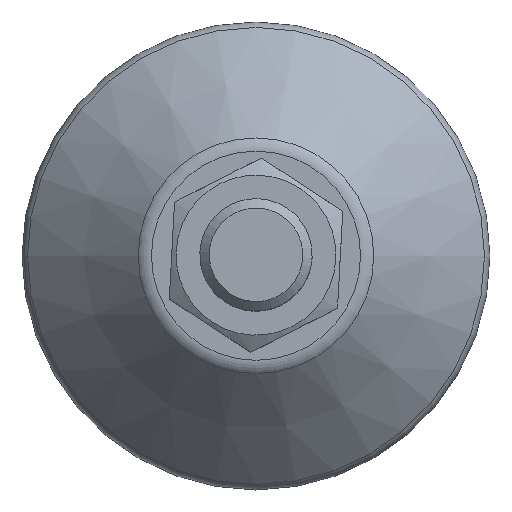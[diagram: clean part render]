
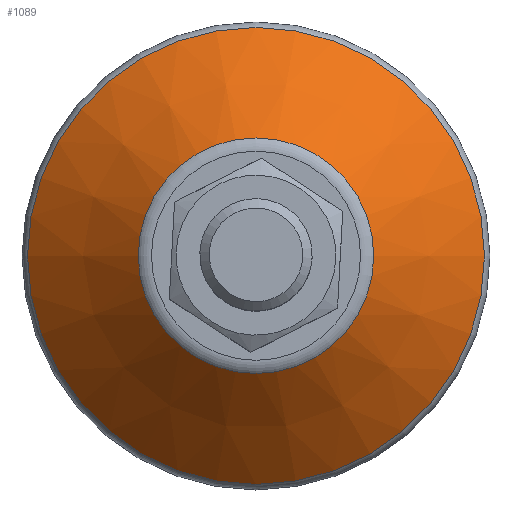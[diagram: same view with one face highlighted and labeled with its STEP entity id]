
A CAD part, top view. The second image highlights one B-rep face of the part: STEP entity #1089.
In plain terms, the highlighted conical face has half-angle 45 degrees and reference radius 18.5 mm.
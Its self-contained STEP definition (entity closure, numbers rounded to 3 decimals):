
#1089=ADVANCED_FACE('',(#2538,#2540),#2542,.T.);
#2538=FACE_BOUND('',#2539,.T.);
#2539=EDGE_LOOP('',(#3682,#3683));
#2540=FACE_BOUND('',#2541,.T.);
#2541=EDGE_LOOP('',(#3684,#3685));
#2542=CONICAL_SURFACE('',#2543,18.5,0.785);
#2543=AXIS2_PLACEMENT_3D('',#2544,#2545,#2546);
#2544=CARTESIAN_POINT('',(0.,0.,11.5));
#2545=DIRECTION('',(0.,0.,-1.));
#2546=DIRECTION('',(1.,0.,0.));
#3682=ORIENTED_EDGE('',*,*,#4375,.T.);
#3683=ORIENTED_EDGE('',*,*,#4374,.T.);
#3684=ORIENTED_EDGE('',*,*,#4378,.F.);
#3685=ORIENTED_EDGE('',*,*,#4379,.F.);
#4374=EDGE_CURVE('',#5072,#5073,#5074,.T.);
#4375=EDGE_CURVE('',#5073,#5072,#5075,.T.);
#4378=EDGE_CURVE('',#5080,#5081,#5082,.T.);
#4379=EDGE_CURVE('',#5081,#5080,#5083,.T.);
#5072=VERTEX_POINT('',#7697);
#5073=VERTEX_POINT('',#7698);
#5074=CIRCLE('',#7699,24.414);
#5075=CIRCLE('',#7703,24.414);
#5080=VERTEX_POINT('',#7717);
#5081=VERTEX_POINT('',#7718);
#5082=CIRCLE('',#7719,12.586);
#5083=CIRCLE('',#7723,12.586);
#7697=CARTESIAN_POINT('',(-24.414,0.,5.586));
#7698=CARTESIAN_POINT('',(24.414,0.,5.586));
#7699=AXIS2_PLACEMENT_3D('',#7700,#7701,#7702);
#7700=CARTESIAN_POINT('',(0.,0.,5.586));
#7701=DIRECTION('',(0.,0.,1.));
#7702=DIRECTION('',(-1.,0.,0.));
#7703=AXIS2_PLACEMENT_3D('',#7704,#7705,#7706);
#7704=CARTESIAN_POINT('',(0.,0.,5.586));
#7705=DIRECTION('',(0.,0.,1.));
#7706=DIRECTION('',(1.,0.,0.));
#7717=CARTESIAN_POINT('',(-12.586,0.,17.414));
#7718=CARTESIAN_POINT('',(12.586,0.,17.414));
#7719=AXIS2_PLACEMENT_3D('',#7720,#7721,#7722);
#7720=CARTESIAN_POINT('',(0.,0.,17.414));
#7721=DIRECTION('',(0.,0.,1.));
#7722=DIRECTION('',(-1.,0.,0.));
#7723=AXIS2_PLACEMENT_3D('',#7724,#7725,#7726);
#7724=CARTESIAN_POINT('',(0.,0.,17.414));
#7725=DIRECTION('',(0.,0.,1.));
#7726=DIRECTION('',(1.,0.,0.));
